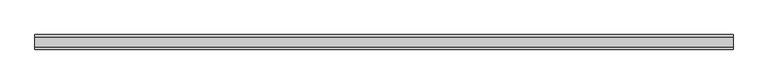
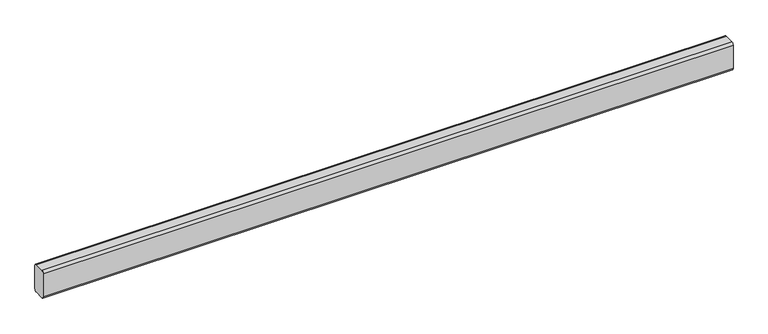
"""IFC4 building model written with IfcOpenShell, lengths in millimetres: proxy geometry, GROUTED CMU CELLS_horizontal : GROUTED CMU CELLS_horizontal."""

from ifc_helpers import new_model, si_unit, point, frame, frame_2d, origin, place, context, project, spatial, polyline, circle_curve, trimmed, segment, composite_curve, outline, extrude, source, transform, mapped, element, save


def generic_models_8a489a14(model_context):
    return source(origin(), model_context, "Body", "SweptSolid", [
        extrude(outline(composite_curve([segment(trimmed(circle_curve(frame_2d((34.925, -85.725)), 15.875), [point((50.8, -85.725))], [point((34.925, -101.6))], False, "CARTESIAN"), True, "CONTINUOUS"), segment(polyline([(34.925, -101.6), (-34.925, -101.6)]), True, "CONTINUOUS"), segment(trimmed(circle_curve(frame_2d((-34.925, -85.725)), 15.875), [point((-34.925, -101.6))], [point((-50.8, -85.725))], False, "CARTESIAN"), True, "CONTINUOUS"), segment(polyline([(-50.8, -85.725), (-50.8, 85.725)]), True, "CONTINUOUS"), segment(trimmed(circle_curve(frame_2d((-34.925, 85.725)), 15.875), [point((-50.8, 85.725))], [point((-34.925, 101.6))], False, "CARTESIAN"), True, "CONTINUOUS"), segment(polyline([(-34.925, 101.6), (34.925, 101.6)]), True, "CONTINUOUS"), segment(trimmed(circle_curve(frame_2d((34.925, 85.725)), 15.875), [point((34.925, 101.6))], [point((50.8, 85.725))], False, "CARTESIAN"), True, "CONTINUOUS"), segment(polyline([(50.8, 85.725), (50.8, -85.725)]), True, "CONTINUOUS")], self_intersect=False)), frame((0.0, 0.0, 0.0), z_axis=(1.0, 0.0, 0.0), x_axis=(0.0, 1.0, 0.0)), (0.0, 0.0, 1.0), 4851.4),
    ])


if __name__ == "__main__":
    model = new_model("IFC4")
    model_context = context("Model", 3, world=origin())
    ifc_project = project(units=[si_unit("LENGTHUNIT", "METRE", prefix="MILLI")], contexts=[model_context])
    site = spatial("IfcSite", under=ifc_project)
    building = spatial("IfcBuilding", under=site)
    placement = place(None, origin())
    generic_models_shape = generic_models_8a489a14(model_context)
    element("IfcBuildingElementProxy", 1, Name="GROUTED CMU CELLS_horizontal : GROUTED CMU CELLS_horizontal", ObjectType="GROUTED CMU CELLS_horizontal : GROUTED CMU CELLS_horizontal", at=placement, inside=building, context=model_context, shape_type="MappedRepresentation", body=[
        mapped(generic_models_shape, transform((0.0, 0.0, 0.0), x_axis=(1.0, 0.0, 0.0), y_axis=(0.0, 1.0, 0.0), z_axis=(0.0, 0.0, 1.0))),
    ])
    save(model, "model.ifc")
